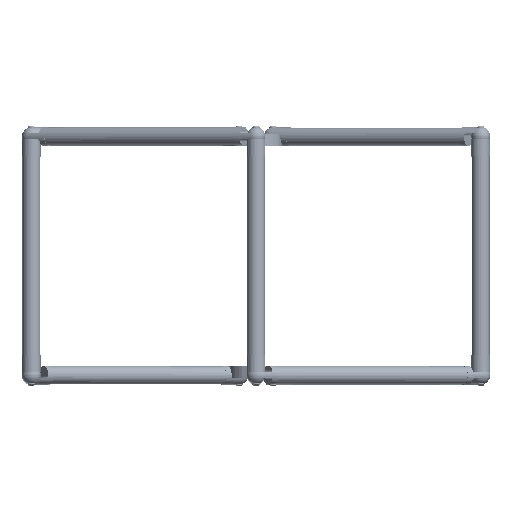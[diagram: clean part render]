
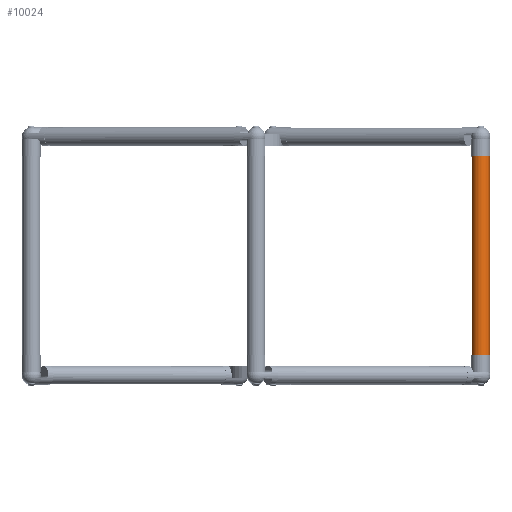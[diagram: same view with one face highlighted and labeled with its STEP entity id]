
A CAD part, top view. The second image highlights one B-rep face of the part: STEP entity #10024.
In plain terms, the highlighted cylindrical face has radius 13.716 mm (diameter 27.432 mm), a partial arc.
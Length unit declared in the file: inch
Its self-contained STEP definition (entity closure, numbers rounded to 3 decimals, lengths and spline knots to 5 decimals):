
#910 = AXIS2_PLACEMENT_3D ( 'NONE', #12145, #4877, #13372 ) ;
#1295 = ORIENTED_EDGE ( 'NONE', *, *, #6112, .T. ) ;
#1672 = ORIENTED_EDGE ( 'NONE', *, *, #8739, .T. ) ;
#2043 = LINE ( 'NONE', #13673, #8483 ) ;
#2990 = CARTESIAN_POINT ( 'NONE',  ( 0., 0., -0.54 ) ) ;
#3442 = CARTESIAN_POINT ( 'NONE',  ( 0., 0., 0.54 ) ) ;
#3788 = CARTESIAN_POINT ( 'NONE',  ( 0., 0., 0. ) ) ;
#3949 = CIRCLE ( 'NONE', #910, 0.54 ) ;
#3967 = AXIS2_PLACEMENT_3D ( 'NONE', #12400, #5133, #13620 ) ;
#4100 = CYLINDRICAL_SURFACE ( 'NONE', #11483, 0.54 ) ;
#4877 = DIRECTION ( 'NONE',  ( 1., 0., 0. ) ) ;
#5133 = DIRECTION ( 'NONE',  ( 1., 0., 0. ) ) ;
#5272 = DIRECTION ( 'NONE',  ( 1., 0., 0. ) ) ;
#6022 = EDGE_LOOP ( 'NONE', ( #13722, #1295, #1672, #12239 ) ) ;
#6112 = EDGE_CURVE ( 'NONE', #14594, #11516, #14401, .T. ) ;
#6159 = DIRECTION ( 'NONE',  ( 1., 0., 0. ) ) ;
#6284 = EDGE_CURVE ( 'NONE', #14594, #12178, #13262, .T. ) ;
#6393 = DIRECTION ( 'NONE',  ( 1., 0., 0. ) ) ;
#6672 = EDGE_CURVE ( 'NONE', #12178, #14477, #3949, .T. ) ;
#7813 = CARTESIAN_POINT ( 'NONE',  ( -12., 0., -0.54 ) ) ;
#8453 = FACE_OUTER_BOUND ( 'NONE', #6022, .T. ) ;
#8483 = VECTOR ( 'NONE', #6393, 39.37008 ) ;
#8739 = EDGE_CURVE ( 'NONE', #11516, #14477, #2043, .T. ) ;
#9344 = CARTESIAN_POINT ( 'NONE',  ( -12., 0., 0.54 ) ) ;
#10024 = ADVANCED_FACE ( 'NONE', ( #8453 ), #4100, .T. ) ;
#11483 = AXIS2_PLACEMENT_3D ( 'NONE', #3788, #6159, #12268 ) ;
#11516 = VERTEX_POINT ( 'NONE', #7813 ) ;
#12145 = CARTESIAN_POINT ( 'NONE',  ( 0., 0., 0. ) ) ;
#12178 = VERTEX_POINT ( 'NONE', #3442 ) ;
#12239 = ORIENTED_EDGE ( 'NONE', *, *, #6672, .F. ) ;
#12268 = DIRECTION ( 'NONE',  ( 0., 0., -1. ) ) ;
#12400 = CARTESIAN_POINT ( 'NONE',  ( -12., 0., 0. ) ) ;
#12536 = CARTESIAN_POINT ( 'NONE',  ( 0., 0., 0.54 ) ) ;
#13262 = LINE ( 'NONE', #12536, #13640 ) ;
#13372 = DIRECTION ( 'NONE',  ( 0., 0., -1. ) ) ;
#13620 = DIRECTION ( 'NONE',  ( 0., 0., -1. ) ) ;
#13640 = VECTOR ( 'NONE', #5272, 39.37008 ) ;
#13673 = CARTESIAN_POINT ( 'NONE',  ( 0., 0., -0.54 ) ) ;
#13722 = ORIENTED_EDGE ( 'NONE', *, *, #6284, .F. ) ;
#14401 = CIRCLE ( 'NONE', #3967, 0.54 ) ;
#14477 = VERTEX_POINT ( 'NONE', #2990 ) ;
#14594 = VERTEX_POINT ( 'NONE', #9344 ) ;
